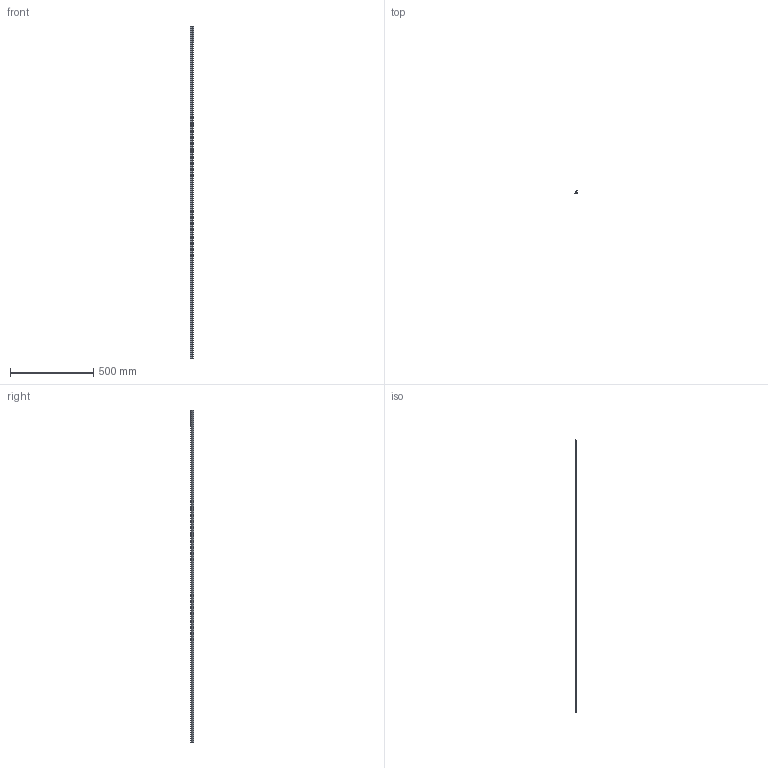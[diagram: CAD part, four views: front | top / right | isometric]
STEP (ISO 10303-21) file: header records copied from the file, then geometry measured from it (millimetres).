
FILE_DESCRIPTION (( 'STEP AP214' ), '1' );
FILE_NAME ('F50826A-2.step', '2024-12-03T16:17:59', ( '' ), ( '' ), 'SwSTEP 2.0', 'SolidWorks 2023', '' );
FILE_SCHEMA (( 'AUTOMOTIVE_DESIGN' ));
Length unit declared in the file: millimetre
Products named in the file (1): F50826A-2
Bounding box: 19.45 x 19.98 x 2000 mm (x, y, z)
Volume: 85946.2 mm3; surface area: 171875.2 mm2
Topology: 2 solids, 2 shells, 32 faces, 84 edges, 56 vertices
Faces by surface type: plane 22, cylinder 10
Entity records: 1020 total; most frequent: CARTESIAN_POINT 173, DIRECTION 170, ORIENTED_EDGE 168, EDGE_CURVE 84, LINE 64, VECTOR 64, VERTEX_POINT 56, AXIS2_PLACEMENT_3D 53
